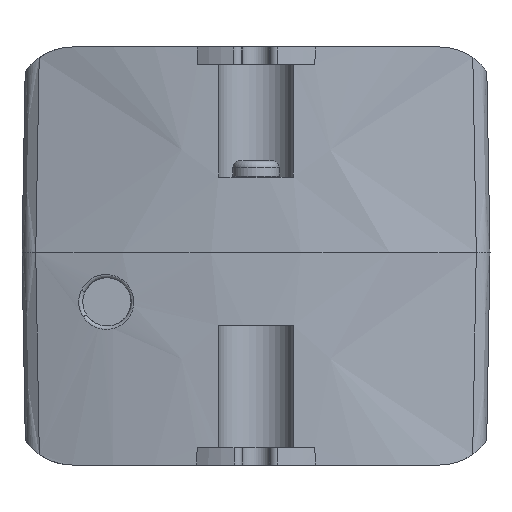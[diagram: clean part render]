
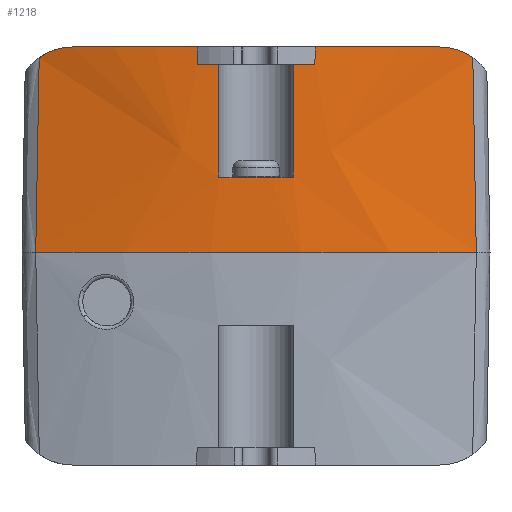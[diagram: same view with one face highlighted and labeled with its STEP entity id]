
A CAD part, left-side view. The second image highlights one B-rep face of the part: STEP entity #1218.
In plain terms, the highlighted conical face has half-angle 1 degrees and reference radius 104.27 mm.
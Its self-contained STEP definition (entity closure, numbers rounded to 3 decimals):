
#752=CONICAL_SURFACE('',#2549,104.27,1.);
#1064=FACE_OUTER_BOUND('',#1402,.T.);
#1150=B_SPLINE_CURVE_WITH_KNOTS('',3,(#3803,#3804,#3805,#3806,#3807,#3808,
#3809),.UNSPECIFIED.,.F.,.F.,(4,3,4),(0.,0.969,1.),
 .UNSPECIFIED.);
#1151=B_SPLINE_CURVE_WITH_KNOTS('',3,(#3811,#3812,#3813,#3814,#3815,#3816,
#3817),.UNSPECIFIED.,.F.,.F.,(4,3,4),(0.,0.969,1.),
 .UNSPECIFIED.);
#1154=B_SPLINE_CURVE_WITH_KNOTS('',3,(#3833,#3834,#3835,#3836),
 .UNSPECIFIED.,.F.,.F.,(4,4),(0.,1.),.UNSPECIFIED.);
#1156=B_SPLINE_CURVE_WITH_KNOTS('',3,(#3856,#3857,#3858,#3859),
 .UNSPECIFIED.,.F.,.F.,(4,4),(0.,1.),.UNSPECIFIED.);
#1159=B_SPLINE_CURVE_WITH_KNOTS('',3,(#3896,#3897,#3898,#3899),
 .UNSPECIFIED.,.F.,.F.,(4,4),(0.,1.),.UNSPECIFIED.);
#1160=B_SPLINE_CURVE_WITH_KNOTS('',3,(#3903,#3904,#3905,#3906),
 .UNSPECIFIED.,.F.,.F.,(4,4),(0.,1.),.UNSPECIFIED.);
#1161=B_SPLINE_CURVE_WITH_KNOTS('',3,(#3907,#3908,#3909,#3910),
 .UNSPECIFIED.,.F.,.F.,(4,4),(0.,1.),.UNSPECIFIED.);
#1162=B_SPLINE_CURVE_WITH_KNOTS('',3,(#3914,#3915,#3916,#3917),
 .UNSPECIFIED.,.F.,.F.,(4,4),(0.,1.),.UNSPECIFIED.);
#1218=ADVANCED_FACE('',(#1064),#752,.T.);
#1402=EDGE_LOOP('',(#1696,#1697,#1698,#1699,#1700,#1701,#1702,#1703,#1704,
#1705,#1706,#1707,#1708,#1709));
#1696=ORIENTED_EDGE('',*,*,#2247,.F.);
#1697=ORIENTED_EDGE('',*,*,#2258,.F.);
#1698=ORIENTED_EDGE('',*,*,#2259,.T.);
#1699=ORIENTED_EDGE('',*,*,#2260,.F.);
#1700=ORIENTED_EDGE('',*,*,#2261,.F.);
#1701=ORIENTED_EDGE('',*,*,#2255,.T.);
#1702=ORIENTED_EDGE('',*,*,#2229,.F.);
#1703=ORIENTED_EDGE('',*,*,#2252,.T.);
#1704=ORIENTED_EDGE('',*,*,#2262,.F.);
#1705=ORIENTED_EDGE('',*,*,#2263,.F.);
#1706=ORIENTED_EDGE('',*,*,#2264,.T.);
#1707=ORIENTED_EDGE('',*,*,#2265,.F.);
#1708=ORIENTED_EDGE('',*,*,#2248,.T.);
#1709=ORIENTED_EDGE('',*,*,#2237,.T.);
#2035=VERTEX_POINT('',#3674);
#2036=VERTEX_POINT('',#3676);
#2038=VERTEX_POINT('',#3737);
#2039=VERTEX_POINT('',#3738);
#2044=VERTEX_POINT('',#3802);
#2045=VERTEX_POINT('',#3818);
#2047=VERTEX_POINT('',#3832);
#2049=VERTEX_POINT('',#3860);
#2051=VERTEX_POINT('',#3895);
#2052=VERTEX_POINT('',#3900);
#2053=VERTEX_POINT('',#3902);
#2054=VERTEX_POINT('',#3911);
#2055=VERTEX_POINT('',#3913);
#2056=VERTEX_POINT('',#3918);
#2229=EDGE_CURVE('',#2035,#2036,#2418,.T.);
#2237=EDGE_CURVE('',#2038,#2039,#2419,.T.);
#2247=EDGE_CURVE('',#2044,#2039,#1150,.T.);
#2248=EDGE_CURVE('',#2045,#2038,#1151,.T.);
#2252=EDGE_CURVE('',#2035,#2047,#1154,.T.);
#2255=EDGE_CURVE('',#2049,#2036,#1156,.T.);
#2258=EDGE_CURVE('',#2051,#2044,#2422,.T.);
#2259=EDGE_CURVE('',#2051,#2052,#1159,.T.);
#2260=EDGE_CURVE('',#2053,#2052,#2423,.T.);
#2261=EDGE_CURVE('',#2049,#2053,#1160,.T.);
#2262=EDGE_CURVE('',#2054,#2047,#1161,.T.);
#2263=EDGE_CURVE('',#2055,#2054,#2424,.T.);
#2264=EDGE_CURVE('',#2055,#2056,#1162,.T.);
#2265=EDGE_CURVE('',#2045,#2056,#2425,.T.);
#2418=CIRCLE('',#2533,104.284);
#2419=CIRCLE('',#2537,104.086);
#2422=CIRCLE('',#2545,103.792);
#2423=CIRCLE('',#2546,103.747);
#2424=CIRCLE('',#2547,103.747);
#2425=CIRCLE('',#2548,103.792);
#2533=AXIS2_PLACEMENT_3D('',#3675,#2805,#2806);
#2537=AXIS2_PLACEMENT_3D('',#3736,#2814,#2815);
#2545=AXIS2_PLACEMENT_3D('',#3894,#2837,#2838);
#2546=AXIS2_PLACEMENT_3D('',#3901,#2839,#2840);
#2547=AXIS2_PLACEMENT_3D('',#3912,#2841,#2842);
#2548=AXIS2_PLACEMENT_3D('',#3919,#2843,#2844);
#2549=AXIS2_PLACEMENT_3D('',#3920,#2845,#2846);
#2805=DIRECTION('',(0.,0.,-1.));
#2806=DIRECTION('',(1.,0.,0.));
#2814=DIRECTION('',(0.,0.,-1.));
#2815=DIRECTION('',(1.,0.,0.));
#2837=DIRECTION('',(0.,0.,1.));
#2838=DIRECTION('',(0.,-1.,0.));
#2839=DIRECTION('',(0.,0.,1.));
#2840=DIRECTION('',(1.,0.,0.));
#2841=DIRECTION('',(0.,0.,1.));
#2842=DIRECTION('',(1.,0.,0.));
#2843=DIRECTION('',(0.,0.,1.));
#2844=DIRECTION('',(0.,-1.,0.));
#2845=DIRECTION('',(0.,0.,-1.));
#2846=DIRECTION('',(-1.,0.,0.));
#3674=CARTESIAN_POINT('',(-93.054,-32.939,0.49));
#3675=CARTESIAN_POINT('',(5.892,-0.004,0.49));
#3676=CARTESIAN_POINT('',(-93.051,32.939,0.49));
#3736=CARTESIAN_POINT('',(5.892,-0.004,11.81));
#3737=CARTESIAN_POINT('',(-98.044,-5.6,11.81));
#3738=CARTESIAN_POINT('',(-98.043,5.6,11.81));
#3802=CARTESIAN_POINT('',(-97.749,5.6,28.66));
#3803=CARTESIAN_POINT('',(-97.749,5.6,28.66));
#3804=CARTESIAN_POINT('',(-97.844,5.6,23.215));
#3805=CARTESIAN_POINT('',(-97.939,5.6,17.771));
#3806=CARTESIAN_POINT('',(-98.034,5.6,12.326));
#3807=CARTESIAN_POINT('',(-98.037,5.6,12.154));
#3808=CARTESIAN_POINT('',(-98.04,5.6,11.982));
#3809=CARTESIAN_POINT('',(-98.043,5.6,11.81));
#3811=CARTESIAN_POINT('',(-97.749,-5.6,28.66));
#3812=CARTESIAN_POINT('',(-97.844,-5.6,23.215));
#3813=CARTESIAN_POINT('',(-97.939,-5.6,17.771));
#3814=CARTESIAN_POINT('',(-98.035,-5.6,12.326));
#3815=CARTESIAN_POINT('',(-98.038,-5.6,12.154));
#3816=CARTESIAN_POINT('',(-98.041,-5.6,11.982));
#3817=CARTESIAN_POINT('',(-98.044,-5.6,11.81));
#3818=CARTESIAN_POINT('',(-97.749,-5.6,28.66));
#3832=CARTESIAN_POINT('',(-92.69,-32.42,29.659));
#3833=CARTESIAN_POINT('',(-93.054,-32.939,0.49));
#3834=CARTESIAN_POINT('',(-92.933,-32.766,10.213));
#3835=CARTESIAN_POINT('',(-92.812,-32.593,19.936));
#3836=CARTESIAN_POINT('',(-92.69,-32.42,29.659));
#3856=CARTESIAN_POINT('',(-92.687,32.42,29.659));
#3857=CARTESIAN_POINT('',(-92.809,32.593,19.936));
#3858=CARTESIAN_POINT('',(-92.93,32.766,10.213));
#3859=CARTESIAN_POINT('',(-93.051,32.939,0.49));
#3860=CARTESIAN_POINT('',(-92.687,32.42,29.659));
#3894=CARTESIAN_POINT('',(5.892,-0.004,28.66));
#3895=CARTESIAN_POINT('',(-97.53,8.747,28.66));
#3896=CARTESIAN_POINT('',(-97.53,8.747,28.66));
#3897=CARTESIAN_POINT('',(-97.513,8.772,29.527));
#3898=CARTESIAN_POINT('',(-97.496,8.797,30.393));
#3899=CARTESIAN_POINT('',(-97.478,8.822,31.26));
#3900=CARTESIAN_POINT('',(-97.478,8.822,31.26));
#3901=CARTESIAN_POINT('',(5.892,-0.004,31.26));
#3902=CARTESIAN_POINT('',(-94.155,27.454,31.26));
#3903=CARTESIAN_POINT('',(-92.687,32.42,29.659));
#3904=CARTESIAN_POINT('',(-93.144,30.974,30.7));
#3905=CARTESIAN_POINT('',(-93.665,29.239,31.26));
#3906=CARTESIAN_POINT('',(-94.155,27.454,31.26));
#3907=CARTESIAN_POINT('',(-94.157,-27.454,31.26));
#3908=CARTESIAN_POINT('',(-93.667,-29.241,31.26));
#3909=CARTESIAN_POINT('',(-93.145,-30.977,30.697));
#3910=CARTESIAN_POINT('',(-92.69,-32.42,29.659));
#3911=CARTESIAN_POINT('',(-94.157,-27.454,31.26));
#3912=CARTESIAN_POINT('',(5.892,-0.004,31.26));
#3913=CARTESIAN_POINT('',(-97.475,-8.872,31.26));
#3914=CARTESIAN_POINT('',(-97.475,-8.872,31.26));
#3915=CARTESIAN_POINT('',(-97.492,-8.848,30.393));
#3916=CARTESIAN_POINT('',(-97.509,-8.822,29.527));
#3917=CARTESIAN_POINT('',(-97.527,-8.797,28.66));
#3918=CARTESIAN_POINT('',(-97.527,-8.797,28.66));
#3919=CARTESIAN_POINT('',(5.892,-0.004,28.66));
#3920=CARTESIAN_POINT('',(5.892,-0.004,1.29));
